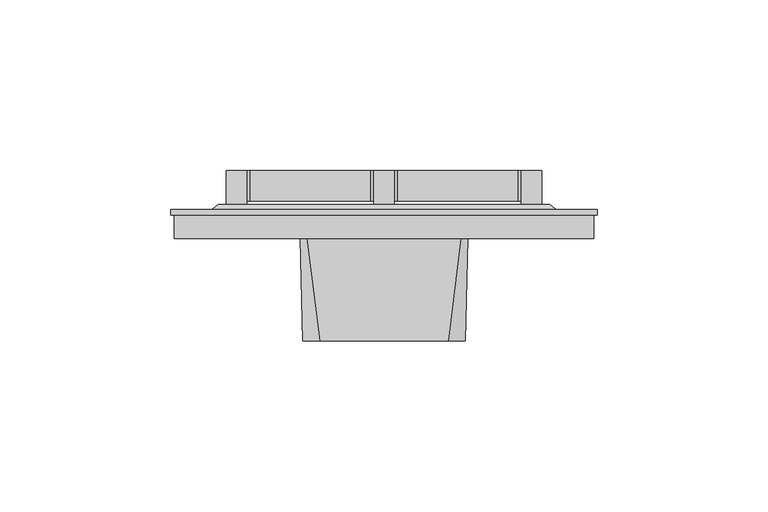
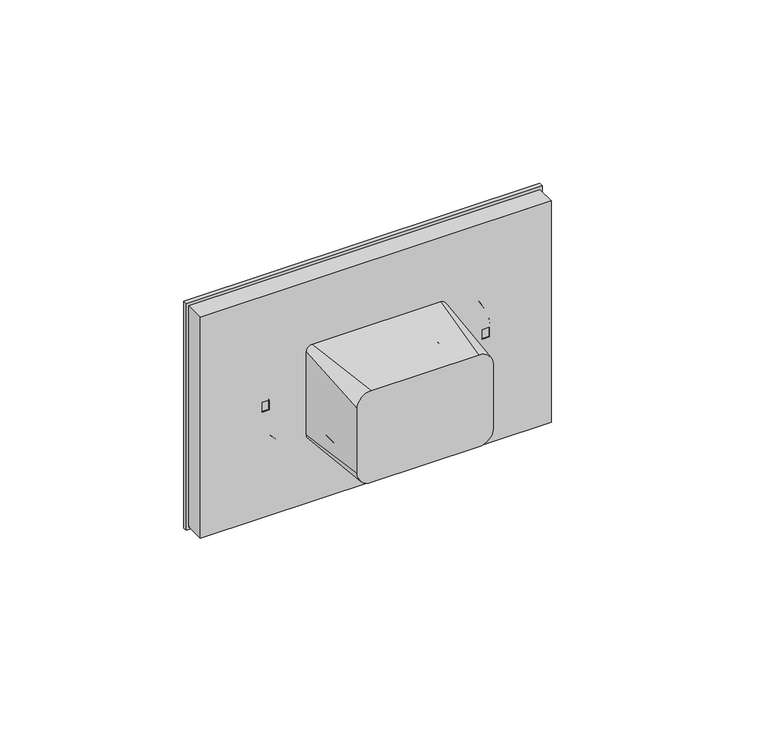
"""IFC4 building model written with IfcOpenShell, lengths in millimetres: proxy geometry, IEK_Brite_Розетка_2гн : 230 В кр. IP44_РСбш12-3-44-БрА."""

import ifcopenshell
import ifcopenshell.guid

model = None  # the IFC model being written
_history = None  # IfcOwnerHistory: only IFC2X3 demands one
_inside = {}  # id of a spatial element -> (the spatial element, [elements in it])
_under = {}  # id of a project, library or spatial element -> (it, [spatial elements below it])
_declared = {}  # id of a project -> (the project, [libraries it declares])
_typed = {}  # id of a type object -> (the type object, [elements of that type])
_made_of = {}  # id of a material, layer set ... -> (it, [elements and type objects made of it])


def new_model(schema):
    """Start an empty IFC model of exactly this schema.

    Asked for "IFC4X3", IfcOpenShell would pick the latest addendum, in which some entities
    have other attributes; the version numbers below select the first issue.
    IFC2X3 requires an IfcOwnerHistory on every rooted entity: one is made here for all.
    """
    global model, _history
    if schema == "IFC4X3":
        model = ifcopenshell.file(schema_version=(4, 3, 0, 0))
    else:
        model = ifcopenshell.file(schema=schema)
    _inside.clear()
    _under.clear()
    _declared.clear()
    _typed.clear()
    _made_of.clear()
    _history = None
    if model.schema == "IFC2X3":
        org = make("IfcOrganization", Name="unknown")
        user = make(
            "IfcPersonAndOrganization",
            ThePerson=make("IfcPerson", FamilyName="unknown"),
            TheOrganization=org,
        )
        app = make(
            "IfcApplication",
            ApplicationDeveloper=org,
            Version="unknown",
            ApplicationFullName="unknown",
            ApplicationIdentifier="unknown",
        )
        _history = make(
            "IfcOwnerHistory",
            OwningUser=user,
            OwningApplication=app,
            ChangeAction="ADDED",
            CreationDate=0,
        )
    return model


def make(cls, **values):
    """One entity of the class cls with the attributes given. An attribute that is None is left unset."""
    return model.create_entity(
        cls, **{name: value for name, value in values.items() if value is not None}
    )


def rooted(cls, **values):
    """An entity with a GlobalId (a new one), such as an element, a storey or a relation."""
    return make(cls, GlobalId=ifcopenshell.guid.new(), OwnerHistory=_history, **values)


def si_unit(unit_type, name, prefix=None):
    """IfcSIUnit, for example si_unit("LENGTHUNIT", "METRE", prefix="MILLI")."""
    return make("IfcSIUnit", UnitType=unit_type, Prefix=prefix, Name=name)


def assignment(units):
    """IfcUnitAssignment: the units of a project."""
    return None if units is None else make("IfcUnitAssignment", Units=units)


def point(xyz):
    """IfcCartesianPoint."""
    return None if xyz is None else make("IfcCartesianPoint", Coordinates=xyz)


def direction(xyz):
    """IfcDirection."""
    return None if xyz is None else make("IfcDirection", DirectionRatios=xyz)


def frame(location, z_axis=None, x_axis=None):
    """IfcAxis2Placement3D, a coordinate frame: its origin and axes. An axis left out is left unset."""
    return make(
        "IfcAxis2Placement3D",
        Location=point(location),
        Axis=direction(z_axis),
        RefDirection=direction(x_axis),
    )


def origin():
    """The frame at (0, 0, 0) with its axes left unset."""
    return frame((0.0, 0.0, 0.0))


def place(relative_to, where):
    """IfcLocalPlacement: puts the frame where relative to a parent placement (None: the world)."""
    return make(
        "IfcLocalPlacement", PlacementRelTo=relative_to, RelativePlacement=where
    )


def context(
    kind, dimensions, precision=None, world=None, true_north=None, identifier=None
):
    """IfcGeometricRepresentationContext, for example the 3D "Model" context."""
    return make(
        "IfcGeometricRepresentationContext",
        ContextIdentifier=identifier,
        ContextType=kind,
        CoordinateSpaceDimension=dimensions,
        Precision=precision,
        WorldCoordinateSystem=world,
        TrueNorth=true_north,
    )


def project(units=None, contexts=None):
    """IfcProject with its units and contexts."""
    return rooted(
        "IfcProject",
        Name="project",
        RepresentationContexts=contexts,
        UnitsInContext=assignment(units),
    )


def spatial(cls, under=None, at=None, **own):
    """A site, building, storey or space (cls), placed at a placement, below another one or the project."""
    s = rooted(cls, ObjectPlacement=at, **own)
    if under is not None:
        _under.setdefault(under.id(), (under, []))[1].append(s)
    return s


def polyline(points):
    """IfcPolyline through the points."""
    return make("IfcPolyline", Points=[point(p) for p in points])


def circle_curve(where, radius):
    """IfcCircle in the frame where."""
    return make("IfcCircle", Position=where, Radius=radius)


def faces_of(points, faces, orient=None, outer=None):
    """IfcFace entities. A face is a list of loops; a loop is a list of indices into points, from 0.

    orient and outer hold one flag for each loop. By default every Orientation is true, the
    first loop of a face is its IfcFaceOuterBound and the others are IfcFaceBound.
    """
    made = []
    for i, loops in enumerate(faces):
        bounds = []
        for j, loop in enumerate(loops):
            is_outer = j == 0 if outer is None else outer[i][j]
            bounds.append(
                make(
                    "IfcFaceOuterBound" if is_outer else "IfcFaceBound",
                    Bound=make("IfcPolyLoop", Polygon=[points[k] for k in loop]),
                    Orientation=True if orient is None else orient[i][j],
                )
            )
        made.append(make("IfcFace", Bounds=bounds))
    return made


def faceted_brep(points, faces, orient=None, outer=None, voids=None):
    """IfcFacetedBrep: a solid bounded by flat faces; with voids (closed shells), ...WithVoids."""
    shared = [point(p) for p in points]
    hull = make("IfcClosedShell", CfsFaces=faces_of(shared, faces, orient, outer))
    if voids is None:
        return make("IfcFacetedBrep", Outer=hull)
    return make(
        "IfcFacetedBrepWithVoids",
        Outer=hull,
        Voids=[
            make(cls, CfsFaces=faces_of(shared, fs, o, b)) for cls, fs, o, b in voids
        ],
    )


def shape(context_of_items, identifier, shape_type, items):
    """IfcShapeRepresentation: the items that make up one representation, for example the "Body"."""
    return make(
        "IfcShapeRepresentation",
        ContextOfItems=context_of_items,
        RepresentationIdentifier=identifier,
        RepresentationType=shape_type,
        Items=items,
    )


def source(mapping_origin, context_of_items, identifier, shape_type, items):
    """IfcRepresentationMap: a shape defined once, which mapped items show again and again."""
    return make(
        "IfcRepresentationMap",
        MappingOrigin=mapping_origin,
        MappedRepresentation=shape(context_of_items, identifier, shape_type, items),
    )


def transform(
    local_origin,
    x_axis=None,
    y_axis=None,
    z_axis=None,
    scale=None,
    scale2=None,
    scale3=None,
    uniform=True,
):
    """IfcCartesianTransformationOperator3D, or its non-uniform kind. x_axis, y_axis, z_axis: its Axis1, 2, 3."""
    if uniform:
        return make(
            "IfcCartesianTransformationOperator3D",
            Axis1=direction(x_axis),
            Axis2=direction(y_axis),
            LocalOrigin=point(local_origin),
            Scale=scale,
            Axis3=direction(z_axis),
        )
    return make(
        "IfcCartesianTransformationOperator3DnonUniform",
        Axis1=direction(x_axis),
        Axis2=direction(y_axis),
        LocalOrigin=point(local_origin),
        Scale=scale,
        Axis3=direction(z_axis),
        Scale2=scale2,
        Scale3=scale3,
    )


def mapped(mapping_source, mapping_target):
    """IfcMappedItem: shows the shape of a source again, moved by a transform."""
    return make(
        "IfcMappedItem", MappingSource=mapping_source, MappingTarget=mapping_target
    )


def made_of(thing, what):
    """Note that an element or type object is made of a material, layer set ...; save() writes the relation."""
    if what is not None:
        _made_of.setdefault(what.id(), (what, []))[1].append(thing)
    return thing


def element(
    cls,
    number,
    at=None,
    inside=None,
    cuts=None,
    type_object=None,
    material=None,
    context=None,
    identifier="Body",
    shape_type=None,
    held_by="IfcProductDefinitionShape",
    body=None,
    shapes=None,
    **own,
):
    """One element of the class cls, such as IfcWall. Its Tag is "e" and its number.

    at: its placement. inside: the storey or other place that contains it. cuts: it is an
    opening in that element (IfcRelVoidsElement). A single representation is given by context,
    identifier, shape_type and body (its items); several are given by shapes. held_by: the class
    of the entity that holds the representations. save() writes the other relations.
    """
    e = rooted(cls, Tag="e%d" % number, ObjectPlacement=at, **own)
    if body is not None:
        shapes = [shape(context, identifier, shape_type, body)]
    if shapes is not None:
        e.Representation = make(held_by, Representations=shapes)
    if inside is not None:
        _inside.setdefault(inside.id(), (inside, []))[1].append(e)
    if cuts is not None:
        rooted(
            "IfcRelVoidsElement", RelatingBuildingElement=cuts, RelatedOpeningElement=e
        )
    if type_object is not None:
        _typed.setdefault(type_object.id(), (type_object, []))[1].append(e)
    return made_of(e, material)


def aggregate(whole, parts):
    """IfcRelAggregates: a whole, such as a stair, and the parts it consists of."""
    return rooted("IfcRelAggregates", RelatingObject=whole, RelatedObjects=parts)


def save(model, path):
    """Write the relations noted so far, then the file.

    IfcRelAggregates (storeys below a building ...), IfcRelContainedInSpatialStructure (elements
    in a storey), IfcRelDefinesByType, IfcRelAssociatesMaterial and IfcRelDeclares: one each for
    every whole, place, type object, material and project.
    """
    for whole, parts in _under.values():
        aggregate(whole, parts)
    for where, things in _inside.values():
        rooted(
            "IfcRelContainedInSpatialStructure",
            RelatedElements=things,
            RelatingStructure=where,
        )
    for kind, things in _typed.values():
        rooted("IfcRelDefinesByType", RelatedObjects=things, RelatingType=kind)
    for what, things in _made_of.values():
        rooted("IfcRelAssociatesMaterial", RelatedObjects=things, RelatingMaterial=what)
    for by, libraries in _declared.values():
        rooted("IfcRelDeclares", RelatingContext=by, RelatedDefinitions=libraries)
    model.write(path)


def plane_surface(at):
    """IfcPlane: the flat surface through the origin of the frame at, square to its z axis."""
    return make("IfcPlane", Position=at)


def revolved_surface(curve, axis_point, axis_direction):
    """IfcSurfaceOfRevolution: the curve turned about the line through axis_point along axis_direction."""
    return make(
        "IfcSurfaceOfRevolution",
        SweptCurve=make("IfcArbitraryOpenProfileDef", ProfileType="CURVE", Curve=curve),
        AxisPosition=make("IfcAxis1Placement", Location=point(axis_point), Axis=direction(axis_direction)),
    )


def spline_surface(u_degree, v_degree, points, u_multiplicities, v_multiplicities, u_knots, v_knots, weights=None):
    """IfcBSplineSurfaceWithKnots; with weights, IfcRationalBSplineSurfaceWithKnots. points: one row for each step in u."""
    own = dict(
        UDegree=u_degree,
        VDegree=v_degree,
        ControlPointsList=[[point(p) for p in row] for row in points],
        SurfaceForm="UNSPECIFIED",
        UClosed=False,
        VClosed=False,
        SelfIntersect=False,
        UMultiplicities=u_multiplicities,
        VMultiplicities=v_multiplicities,
        UKnots=u_knots,
        VKnots=v_knots,
        KnotSpec="UNSPECIFIED",
    )
    if weights is None:
        return make("IfcBSplineSurfaceWithKnots", **own)
    return make("IfcRationalBSplineSurfaceWithKnots", WeightsData=weights, **own)


def advanced_brep(points, edges, surfaces, faces):
    """IfcAdvancedBrep: a solid bounded by faces that lie on surfaces and meet in shared edges.

    An edge is (start, end): straight between two places in points (the first is 0);
    or (start, end, curve); or (start, end, curve, False) where it runs against its curve.
    A face is (place in surfaces, loops), or (place, loops, False) where it looks against
    its surface's normal. A loop lists edges by number (the first is 1), with a minus sign
    where the edge is run from its end to its start. The first loop is the outer one.
    """
    corners = [point(p) for p in points]
    vertices = [make("IfcVertexPoint", VertexGeometry=c) for c in corners]
    made = []
    for start, end, *more in edges:
        made.append(
            make(
                "IfcEdgeCurve",
                EdgeStart=vertices[start],
                EdgeEnd=vertices[end],
                EdgeGeometry=more[0] if more else make("IfcPolyline", Points=[corners[start], corners[end]]),
                SameSense=more[1] if len(more) > 1 else True,
            )
        )
    hull = []
    for where, loops, *sense in faces:
        bounds = []
        for j, loop in enumerate(loops):
            ring = [make("IfcOrientedEdge", EdgeElement=made[abs(k) - 1], Orientation=k > 0) for k in loop]
            bounds.append(
                make(
                    "IfcFaceOuterBound" if j == 0 else "IfcFaceBound",
                    Bound=make("IfcEdgeLoop", EdgeList=ring),
                    Orientation=True,
                )
            )
        hull.append(make("IfcAdvancedFace", Bounds=bounds, FaceSurface=surfaces[where], SameSense=sense[0] if sense else True))
    return make("IfcAdvancedBrep", Outer=make("IfcClosedShell", CfsFaces=hull))


def electrical_fixtures_f460a2b5(model_context):
    return source(origin(), model_context, "Body", "SolidModel", [
        faceted_brep([(39.1724879, 20.0, 24.0), (39.1724879, 20.0, 16.5083131), (46.1724879, 20.0, 16.5083131), (46.1724879, 20.0, -26.7712735), (0.3, 20.0, -26.7712735), (0.3, 20.0, 16.5083131), (3.9893441, 20.0, 16.5083131), (3.9893441, 20.0, 24.0), (39.1724879, 11.0, 24.0), (3.9893441, 11.0, 24.0), (3.9893441, 11.0, 13.501454), (0.3, 11.0, 13.501454), (0.3, 11.0, -25.3475157), (46.1724879, 11.0, -25.3475157), (46.1724879, 11.0, 13.501454), (39.1724879, 11.0, 13.501454)], [[[0, 1, 2, 3, 4, 5, 6, 7]], [[8, 9, 10, 11, 12, 13, 14, 15]], [[8, 15, 1, 0]], [[15, 14, 2, 1]], [[14, 13, 3, 2]], [[13, 12, 4, 3]], [[12, 11, 5, 4]], [[11, 10, 6, 5]], [[10, 9, 7, 6]], [[9, 8, 0, 7]]]),
        advanced_brep(
        [(20.5, 0.0, -6.3904783), (20.5, 0.0, -11.8753617), (20.5, 0.5, -11.8753617), (20.5, 0.5, -6.3904783), (20.5, 0.0, 3.0105286), (20.5, 0.0, -3.0105286), (20.5, 0.5, -3.0105286), (20.5, 0.5, 3.0105286), (20.5, 0.0, 11.8753617), (20.5, 0.0, 6.3904783), (20.5, 0.5, 6.3904783), (20.5, 0.5, 11.8753617), (39.8280847, 0.0, -1.7917908), (39.8280847, 0.0, 0.0), (39.8280847, 0.5, 0.0), (39.8280847, 0.5, -1.7917908), (39.8280847, 0.0, 1.7917908), (39.8280847, 0.5, 1.7917908), (37.3280847, 0.0, 1.7917908), (37.3280847, 0.5, 1.7917908), (37.3280847, 0.0, 0.0), (37.3280847, 0.5, 0.0), (37.3280847, 0.0, -1.7917908), (37.3280847, 0.5, -1.7917908), (1.1719153, 0.0, -1.7917908), (3.6719153, 0.0, -1.7917908), (3.6719153, 0.5, -1.7917908), (1.1719153, 0.5, -1.7917908), (3.6719153, 0.0, 0.0), (3.6719153, 0.5, 0.0), (3.6719153, 0.0, 1.7917908), (3.6719153, 0.5, 1.7917908), (1.1719153, 0.0, 1.7917908), (1.1719153, 0.5, 1.7917908), (1.1719153, 0.0, 0.0), (1.1719153, 0.5, 0.0), (-20.5, 0.0, -6.3904783), (-20.5, 0.0, -11.8753617), (-20.5, 0.5, -11.8753617), (-20.5, 0.5, -6.3904783), (-20.5, 0.0, 3.0105286), (-20.5, 0.0, -3.0105286), (-20.5, 0.5, -3.0105286), (-20.5, 0.5, 3.0105286), (-20.5, 0.0, 11.8753617), (-20.5, 0.0, 6.3904783), (-20.5, 0.5, 6.3904783), (-20.5, 0.5, 11.8753617), (-39.8280847, 0.0, -1.7917908), (-37.3280847, 0.0, -1.7917908), (-37.3280847, 0.5, -1.7917908), (-39.8280847, 0.5, -1.7917908), (-37.3280847, 0.0, 0.0), (-37.3280847, 0.5, 0.0), (-37.3280847, 0.0, 1.7917908), (-37.3280847, 0.5, 1.7917908), (-39.8280847, 0.0, 1.7917908), (-39.8280847, 0.5, 1.7917908), (-39.8280847, 0.0, 0.0), (-39.8280847, 0.5, 0.0), (-1.1719153, 0.0, -1.7917908), (-1.1719153, 0.0, 0.0), (-1.1719153, 0.5, 0.0), (-1.1719153, 0.5, -1.7917908), (-1.1719153, 0.0, 1.7917908), (-1.1719153, 0.5, 1.7917908), (-3.6719153, 0.0, 1.7917908), (-3.6719153, 0.5, 1.7917908), (-3.6719153, 0.0, 0.0), (-3.6719153, 0.5, 0.0), (-3.6719153, 0.0, -1.7917908), (-3.6719153, 0.5, -1.7917908), (-48.5, 10.0, 28.0), (48.5, 10.0, 28.0), (48.5, 10.0, -28.0), (-48.5, 10.0, -28.0), (-0.5, 10.0, 0.0), (-40.5, 10.0, 0.0), (40.5, 10.0, 0.0), (0.5, 10.0, 0.0), (-50.5, 8.5, -30.0), (-50.5, 8.5, 30.0), (50.5, 8.5, -30.0), (50.5, 8.5, 30.0), (-0.5, 0.5, 0.0), (-40.5, 0.5, 0.0), (40.5, 0.5, 0.0), (0.5, 0.5, 0.0), (-62.5, 7.0, 42.0), (-62.5, 7.0, -42.0), (62.5, 7.0, -42.0), (62.5, 7.0, 42.0), (-61.5, 7.0, -41.0), (-61.5, 7.0, 41.0), (61.5, 7.0, 41.0), (61.5, 7.0, -41.0), (-62.5, 8.5, 42.0), (62.5, 8.5, 42.0), (62.5, 8.5, -42.0), (-62.5, 8.5, -42.0), (-61.5, 0.0, 41.0), (-61.5, 0.0, -41.0), (61.5, 0.0, -41.0), (61.5, 0.0, 41.0)],
        [
            (0, 1, circle_curve(frame((20.5, 0.0, -9.13292), z_axis=(0.0, -1.0, 0.0), x_axis=(0.0, 0.0, -1.0)), 2.7424417)),
            (1, 2),
            (2, 3, circle_curve(frame((20.5, 0.5, -9.13292), z_axis=(0.0, 1.0, 0.0), x_axis=(0.0, 0.0, -1.0)), 2.7424417)),
            (3, 0),
            (1, 0, circle_curve(frame((20.5, 0.0, -9.13292), z_axis=(0.0, -1.0, 0.0), x_axis=(0.0, 0.0, -1.0)), 2.7424417)),
            (3, 2, circle_curve(frame((20.5, 0.5, -9.13292), z_axis=(0.0, 1.0, 0.0), x_axis=(0.0, 0.0, -1.0)), 2.7424417)),
            (4, 5, circle_curve(frame((20.5, 0.0, 0.0), z_axis=(0.0, -1.0, 0.0), x_axis=(0.0, 0.0, -1.0)), 3.0105286)),
            (5, 6),
            (6, 7, circle_curve(frame((20.5, 0.5, 0.0), z_axis=(0.0, 1.0, 0.0), x_axis=(0.0, 0.0, -1.0)), 3.0105286)),
            (7, 4),
            (5, 4, circle_curve(frame((20.5, 0.0, 0.0), z_axis=(0.0, -1.0, 0.0), x_axis=(0.0, 0.0, -1.0)), 3.0105286)),
            (7, 6, circle_curve(frame((20.5, 0.5, 0.0), z_axis=(0.0, 1.0, 0.0), x_axis=(0.0, 0.0, -1.0)), 3.0105286)),
            (8, 9, circle_curve(frame((20.5, 0.0, 9.13292), z_axis=(0.0, -1.0, 0.0), x_axis=(0.0, 0.0, -1.0)), 2.7424417)),
            (9, 10),
            (10, 11, circle_curve(frame((20.5, 0.5, 9.13292), z_axis=(0.0, 1.0, 0.0), x_axis=(0.0, 0.0, -1.0)), 2.7424417)),
            (11, 8),
            (9, 8, circle_curve(frame((20.5, 0.0, 9.13292), z_axis=(0.0, -1.0, 0.0), x_axis=(0.0, 0.0, -1.0)), 2.7424417)),
            (11, 10, circle_curve(frame((20.5, 0.5, 9.13292), z_axis=(0.0, 1.0, 0.0), x_axis=(0.0, 0.0, -1.0)), 2.7424417)),
            (12, 13),
            (13, 14),
            (14, 15),
            (15, 12),
            (13, 16),
            (16, 17),
            (17, 14),
            (16, 18),
            (18, 19),
            (19, 17),
            (18, 20),
            (20, 21),
            (21, 19),
            (20, 22),
            (22, 23),
            (23, 21),
            (22, 12),
            (15, 23),
            (24, 25),
            (25, 26),
            (26, 27),
            (27, 24),
            (25, 28),
            (28, 29),
            (29, 26),
            (28, 30),
            (30, 31),
            (31, 29),
            (30, 32),
            (32, 33),
            (33, 31),
            (32, 34),
            (34, 35),
            (35, 33),
            (34, 24),
            (27, 35),
            (36, 37, circle_curve(frame((-20.5, 0.0, -9.13292), z_axis=(0.0, -1.0, 0.0), x_axis=(0.0, 0.0, -1.0)), 2.7424417)),
            (37, 38),
            (38, 39, circle_curve(frame((-20.5, 0.5, -9.13292), z_axis=(0.0, 1.0, 0.0), x_axis=(0.0, 0.0, -1.0)), 2.7424417)),
            (39, 36),
            (37, 36, circle_curve(frame((-20.5, 0.0, -9.13292), z_axis=(0.0, -1.0, 0.0), x_axis=(0.0, 0.0, -1.0)), 2.7424417)),
            (39, 38, circle_curve(frame((-20.5, 0.5, -9.13292), z_axis=(0.0, 1.0, 0.0), x_axis=(0.0, 0.0, -1.0)), 2.7424417)),
            (40, 41, circle_curve(frame((-20.5, 0.0, 0.0), z_axis=(0.0, -1.0, 0.0), x_axis=(0.0, 0.0, -1.0)), 3.0105286)),
            (41, 42),
            (42, 43, circle_curve(frame((-20.5, 0.5, 0.0), z_axis=(0.0, 1.0, 0.0), x_axis=(0.0, 0.0, -1.0)), 3.0105286)),
            (43, 40),
            (41, 40, circle_curve(frame((-20.5, 0.0, 0.0), z_axis=(0.0, -1.0, 0.0), x_axis=(0.0, 0.0, -1.0)), 3.0105286)),
            (43, 42, circle_curve(frame((-20.5, 0.5, 0.0), z_axis=(0.0, 1.0, 0.0), x_axis=(0.0, 0.0, -1.0)), 3.0105286)),
            (44, 45, circle_curve(frame((-20.5, 0.0, 9.13292), z_axis=(0.0, -1.0, 0.0), x_axis=(0.0, 0.0, -1.0)), 2.7424417)),
            (45, 46),
            (46, 47, circle_curve(frame((-20.5, 0.5, 9.13292), z_axis=(0.0, 1.0, 0.0), x_axis=(0.0, 0.0, -1.0)), 2.7424417)),
            (47, 44),
            (45, 44, circle_curve(frame((-20.5, 0.0, 9.13292), z_axis=(0.0, -1.0, 0.0), x_axis=(0.0, 0.0, -1.0)), 2.7424417)),
            (47, 46, circle_curve(frame((-20.5, 0.5, 9.13292), z_axis=(0.0, 1.0, 0.0), x_axis=(0.0, 0.0, -1.0)), 2.7424417)),
            (48, 49),
            (49, 50),
            (50, 51),
            (51, 48),
            (49, 52),
            (52, 53),
            (53, 50),
            (52, 54),
            (54, 55),
            (55, 53),
            (54, 56),
            (56, 57),
            (57, 55),
            (56, 58),
            (58, 59),
            (59, 57),
            (58, 48),
            (51, 59),
            (60, 61),
            (61, 62),
            (62, 63),
            (63, 60),
            (61, 64),
            (64, 65),
            (65, 62),
            (64, 66),
            (66, 67),
            (67, 65),
            (66, 68),
            (68, 69),
            (69, 67),
            (68, 70),
            (70, 71),
            (71, 69),
            (70, 60),
            (63, 71),
            (72, 73),
            (73, 74),
            (74, 75),
            (75, 72),
            (76, 77, circle_curve(frame((-20.5, 10.0, 0.0), z_axis=(0.0, -1.0, 0.0), x_axis=(-1.0, 0.0, 0.0)), 20.0)),
            (77, 76, circle_curve(frame((-20.5, 10.0, 0.0), z_axis=(0.0, -1.0, 0.0), x_axis=(-1.0, 0.0, 0.0)), 20.0)),
            (78, 79, circle_curve(frame((20.5, 10.0, 0.0), z_axis=(0.0, -1.0, 0.0), x_axis=(-1.0, 0.0, 0.0)), 20.0)),
            (79, 78, circle_curve(frame((20.5, 10.0, 0.0), z_axis=(0.0, -1.0, 0.0), x_axis=(-1.0, 0.0, 0.0)), 20.0)),
            (75, 80),
            (80, 81),
            (81, 72),
            (74, 82),
            (82, 80),
            (73, 83),
            (83, 82),
            (81, 83),
            (84, 85, circle_curve(frame((-20.5, 0.5, 0.0), z_axis=(0.0, 1.0, 0.0), x_axis=(-1.0, 0.0, 0.0)), 20.0)),
            (85, 84, circle_curve(frame((-20.5, 0.5, 0.0), z_axis=(0.0, 1.0, 0.0), x_axis=(-1.0, 0.0, 0.0)), 20.0)),
            (86, 87, circle_curve(frame((20.5, 0.5, 0.0), z_axis=(0.0, 1.0, 0.0), x_axis=(-1.0, 0.0, 0.0)), 20.0)),
            (87, 86, circle_curve(frame((20.5, 0.5, 0.0), z_axis=(0.0, 1.0, 0.0), x_axis=(-1.0, 0.0, 0.0)), 20.0)),
            (85, 77),
            (76, 84),
            (87, 79),
            (78, 86),
            (88, 89),
            (89, 90),
            (90, 91),
            (91, 88),
            (92, 93),
            (93, 94),
            (94, 95),
            (95, 92),
            (96, 97),
            (97, 98),
            (98, 99),
            (99, 96),
            (91, 97),
            (96, 88),
            (90, 98),
            (89, 99),
            (100, 101),
            (101, 102),
            (102, 103),
            (103, 100),
            (100, 93),
            (92, 101),
            (95, 102),
            (94, 103),
        ],
        [
            revolved_surface(polyline([(20.5, 0.0, -11.875361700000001), (20.5, 0.5, -11.875361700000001)]), (20.5, 1.0, -9.13292), (0.0, -1.0, 0.0)),
            revolved_surface(polyline([(20.5, 0.0, -3.0105286), (20.5, 0.5, -3.0105286)]), (20.5, -2.0, 0.0), (0.0, -1.0, 0.0)),
            revolved_surface(polyline([(20.5, 0.0, 6.3904783), (20.5, 0.5, 6.3904783)]), (20.5, -2.0, 9.13292), (0.0, -1.0, 0.0)),
            plane_surface(frame((39.8280847, -13.4962918, -1.7917908), z_axis=(-1.0, 0.0, 0.0), x_axis=(0.0, 1.0, 0.0))),
            plane_surface(frame((39.8280847, -13.4962918, 0.0), z_axis=(-1.0, 0.0, 0.0), x_axis=(0.0, 1.0, 0.0))),
            plane_surface(frame((39.8280847, -13.4962918, 1.7917908), z_axis=(0.0, 0.0, -1.0), x_axis=(0.0, 1.0, 0.0))),
            plane_surface(frame((37.3280847, -13.4962918, 1.7917908), z_axis=(1.0, 0.0, 0.0), x_axis=(0.0, 1.0, 0.0))),
            plane_surface(frame((37.3280847, -13.4962918, 0.0), z_axis=(1.0, 0.0, 0.0), x_axis=(0.0, 1.0, 0.0))),
            plane_surface(frame((37.3280847, -13.4962918, -1.7917908), z_axis=(0.0, 0.0, 1.0), x_axis=(0.0, 1.0, 0.0))),
            plane_surface(frame((1.1719153, -13.4962918, -1.7917908), z_axis=(0.0, 0.0, 1.0), x_axis=(0.0, 1.0, 0.0))),
            plane_surface(frame((3.6719153, -13.4962918, -1.7917908), z_axis=(-1.0, 0.0, 0.0), x_axis=(0.0, 1.0, 0.0))),
            plane_surface(frame((3.6719153, -13.4962918, 0.0), z_axis=(-1.0, 0.0, 0.0), x_axis=(0.0, 1.0, 0.0))),
            plane_surface(frame((3.6719153, -13.4962918, 1.7917908), z_axis=(0.0, 0.0, -1.0), x_axis=(0.0, 1.0, 0.0))),
            plane_surface(frame((1.1719153, -13.4962918, 1.7917908), z_axis=(1.0, 0.0, 0.0), x_axis=(0.0, 1.0, 0.0))),
            plane_surface(frame((1.1719153, -13.4962918, 0.0), z_axis=(1.0, 0.0, 0.0), x_axis=(0.0, 1.0, 0.0))),
            revolved_surface(polyline([(-20.5, 0.0, -11.875361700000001), (-20.5, 0.5, -11.875361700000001)]), (-20.5, -2.0, -9.13292), (0.0, -1.0, 0.0)),
            revolved_surface(polyline([(-20.5, 0.0, -3.0105286), (-20.5, 0.5, -3.0105286)]), (-20.5, -2.0, 0.0), (0.0, -1.0, 0.0)),
            revolved_surface(polyline([(-20.5, 0.0, 6.3904783), (-20.5, 0.5, 6.3904783)]), (-20.5, -2.0, 9.13292), (0.0, -1.0, 0.0)),
            plane_surface(frame((-39.8280847, -13.4962918, -1.7917908), z_axis=(0.0, 0.0, 1.0), x_axis=(0.0, 1.0, 0.0))),
            plane_surface(frame((-37.3280847, -13.4962918, -1.7917908), z_axis=(-1.0, 0.0, 0.0), x_axis=(0.0, 1.0, 0.0))),
            plane_surface(frame((-37.3280847, -13.4962918, 0.0), z_axis=(-1.0, 0.0, 0.0), x_axis=(0.0, 1.0, 0.0))),
            plane_surface(frame((-37.3280847, -13.4962918, 1.7917908), z_axis=(0.0, 0.0, -1.0), x_axis=(0.0, 1.0, 0.0))),
            plane_surface(frame((-39.8280847, -13.4962918, 1.7917908), z_axis=(1.0, 0.0, 0.0), x_axis=(0.0, 1.0, 0.0))),
            plane_surface(frame((-39.8280847, -13.4962918, 0.0), z_axis=(1.0, 0.0, 0.0), x_axis=(0.0, 1.0, 0.0))),
            plane_surface(frame((-1.1719153, -13.4962918, -1.7917908), z_axis=(-1.0, 0.0, 0.0), x_axis=(0.0, 1.0, 0.0))),
            plane_surface(frame((-1.1719153, -13.4962918, 0.0), z_axis=(-1.0, 0.0, 0.0), x_axis=(0.0, 1.0, 0.0))),
            plane_surface(frame((-1.1719153, -13.4962918, 1.7917908), z_axis=(0.0, 0.0, -1.0), x_axis=(0.0, 1.0, 0.0))),
            plane_surface(frame((-3.6719153, -13.4962918, 1.7917908), z_axis=(1.0, 0.0, 0.0), x_axis=(0.0, 1.0, 0.0))),
            plane_surface(frame((-3.6719153, -13.4962918, 0.0), z_axis=(1.0, 0.0, 0.0), x_axis=(0.0, 1.0, 0.0))),
            plane_surface(frame((-3.6719153, -13.4962918, -1.7917908), z_axis=(0.0, 0.0, 1.0), x_axis=(0.0, 1.0, 0.0))),
            plane_surface(frame((0.0, 10.0, 0.0), z_axis=(0.0, 1.0, 0.0), x_axis=(1.0, 0.0, 0.0))),
            plane_surface(frame((-48.5, 10.0, 0.0), z_axis=(-0.5999999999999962, 0.8000000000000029, 0.0), x_axis=(0.0, 0.0, -1.0))),
            plane_surface(frame((0.0, 10.0, -28.0), z_axis=(0.0, 0.7999999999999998, -0.6000000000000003), x_axis=(1.0, 0.0, 0.0))),
            plane_surface(frame((48.5, 10.0, 0.0), z_axis=(0.6000000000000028, 0.7999999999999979, 0.0), x_axis=(0.0, 0.0, 1.0))),
            plane_surface(frame((0.0, 10.0, 28.0), z_axis=(0.0, 0.7999999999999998, 0.6000000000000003), x_axis=(-1.0, 0.0, 0.0))),
            plane_surface(frame((-40.5, 0.5, 0.0), z_axis=(0.0, 1.0, 0.0), x_axis=(0.0, 0.0, -1.0))),
            revolved_surface(polyline([(-40.5, 10.0, 0.0), (-40.5, 0.5, 0.0)]), (-20.5, 0.5, 0.0), (0.0, 1.0, 0.0)),
            revolved_surface(polyline([(0.5, 10.0, 0.0), (0.5, 0.5, 0.0)]), (20.5, 0.0, 0.0), (0.0, 1.0, 0.0)),
            plane_surface(frame((62.5, 7.0, 42.0), z_axis=(0.0, -1.0, 0.0), x_axis=(-1.0, 0.0, 0.0))),
            plane_surface(frame((62.5, 8.5, 42.0), z_axis=(0.0, 1.0, 0.0), x_axis=(1.0, 0.0, 0.0))),
            plane_surface(frame((-62.5, 8.5, 42.0), z_axis=(0.0, 0.0, 1.0), x_axis=(0.0, -1.0, 0.0))),
            plane_surface(frame((62.5, 8.5, 42.0), z_axis=(1.0, 0.0, 0.0), x_axis=(0.0, -1.0, 0.0))),
            plane_surface(frame((62.5, 8.5, -42.0), z_axis=(0.0, 0.0, -1.0), x_axis=(0.0, -1.0, 0.0))),
            plane_surface(frame((-62.5, 8.5, -42.0), z_axis=(-1.0, 0.0, 0.0), x_axis=(0.0, -1.0, 0.0))),
            plane_surface(frame((-61.5, 0.0, 41.0), z_axis=(0.0, -1.0, 0.0), x_axis=(0.0, 0.0, -1.0))),
            plane_surface(frame((-61.5, 0.0, 41.0), z_axis=(-1.0, 0.0, 0.0), x_axis=(0.0, 1.0, 0.0))),
            plane_surface(frame((-61.5, 0.0, -41.0), z_axis=(0.0, 0.0, -1.0), x_axis=(0.0, 1.0, 0.0))),
            plane_surface(frame((61.5, 0.0, -41.0), z_axis=(1.0, 0.0, 0.0), x_axis=(0.0, 1.0, 0.0))),
            plane_surface(frame((61.5, 0.0, 41.0), z_axis=(0.0, 0.0, 1.0), x_axis=(0.0, 1.0, 0.0))),
        ],
        [
            (0, [[1, 2, 3, 4]]),
            (0, [[5, -4, 6, -2]]),
            (1, [[7, 8, 9, 10]]),
            (1, [[11, -10, 12, -8]]),
            (2, [[13, 14, 15, 16]]),
            (2, [[17, -16, 18, -14]]),
            (3, [[19, 20, 21, 22]]),
            (4, [[23, 24, 25, -20]]),
            (5, [[26, 27, 28, -24]]),
            (6, [[29, 30, 31, -27]]),
            (7, [[32, 33, 34, -30]]),
            (8, [[35, -22, 36, -33]]),
            (9, [[37, 38, 39, 40]]),
            (10, [[41, 42, 43, -38]]),
            (11, [[44, 45, 46, -42]]),
            (12, [[47, 48, 49, -45]]),
            (13, [[50, 51, 52, -48]]),
            (14, [[53, -40, 54, -51]]),
            (15, [[55, 56, 57, 58]]),
            (15, [[59, -58, 60, -56]]),
            (16, [[61, 62, 63, 64]]),
            (16, [[65, -64, 66, -62]]),
            (17, [[67, 68, 69, 70]]),
            (17, [[71, -70, 72, -68]]),
            (18, [[73, 74, 75, 76]]),
            (19, [[77, 78, 79, -74]]),
            (20, [[80, 81, 82, -78]]),
            (21, [[83, 84, 85, -81]]),
            (22, [[86, 87, 88, -84]]),
            (23, [[89, -76, 90, -87]]),
            (24, [[91, 92, 93, 94]]),
            (25, [[95, 96, 97, -92]]),
            (26, [[98, 99, 100, -96]]),
            (27, [[101, 102, 103, -99]]),
            (28, [[104, 105, 106, -102]]),
            (29, [[107, -94, 108, -105]]),
            (30, [[109, 110, 111, 112], [113, 114], [115, 116]]),
            (31, [[-112, 117, 118, 119]]),
            (32, [[-111, 120, 121, -117]]),
            (33, [[-110, 122, 123, -120]]),
            (34, [[-109, -119, 124, -122]]),
            (35, [[125, 126], [-57, -60], [-63, -66], [-69, -72], [-75, -79, -82, -85, -88, -90], [-93, -97, -100, -103, -106, -108]]),
            (35, [[127, 128], [-3, -6], [-9, -12], [-15, -18], [-21, -25, -28, -31, -34, -36], [-39, -43, -46, -49, -52, -54]]),
            (36, [[-126, 129, -113, 130]]),
            (36, [[-125, -130, -114, -129]]),
            (37, [[-128, 131, -115, 132]]),
            (37, [[-127, -132, -116, -131]]),
            (38, [[133, 134, 135, 136], [137, 138, 139, 140]]),
            (39, [[141, 142, 143, 144], [-118, -121, -123, -124]]),
            (40, [[-136, 145, -141, 146]]),
            (41, [[-135, 147, -142, -145]]),
            (42, [[-134, 148, -143, -147]]),
            (43, [[-133, -146, -144, -148]]),
            (44, [[149, 150, 151, 152], [-1, -5], [-7, -11], [-13, -17], [-19, -35, -32, -29, -26, -23], [-37, -53, -50, -47, -44, -41], [-55, -59], [-61, -65], [-67, -71], [-73, -89, -86, -83, -80, -77], [-91, -107, -104, -101, -98, -95]]),
            (45, [[-149, 153, -137, 154]]),
            (46, [[-150, -154, -140, 155]]),
            (47, [[-151, -155, -139, 156]]),
            (48, [[-152, -156, -138, -153]]),
        ],
    ),
        faceted_brep([(-39.1724879, 20.0, 24.0), (-3.9893441, 20.0, 24.0), (-3.9893441, 20.0, 16.5083131), (-0.2893441, 20.0, 16.5083131), (-0.2893441, 20.0, -26.7712735), (-46.1724879, 20.0, -26.7712735), (-46.1724879, 20.0, 16.5083131), (-39.1724879, 20.0, 16.5083131), (-39.1724879, 11.0, 24.0), (-39.1724879, 11.0, 13.501454), (-46.1724879, 11.0, 13.501454), (-46.1724879, 11.0, -25.3475157), (-0.2893441, 11.0, -25.3475157), (-0.2893441, 11.0, 13.501454), (-3.9893441, 11.0, 13.501454), (-3.9893441, 11.0, 24.0)], [[[0, 1, 2, 3, 4, 5, 6, 7]], [[8, 9, 10, 11, 12, 13, 14, 15]], [[9, 8, 0, 7]], [[10, 9, 7, 6]], [[11, 10, 6, 5]], [[12, 11, 5, 4]], [[13, 12, 4, 3]], [[14, 13, 3, 2]], [[15, 14, 2, 1]], [[8, 15, 1, 0]]]),
        advanced_brep(
        [(20.5, -13.4962918, -6.3904783), (20.5, -13.4962918, -11.8753617), (20.5, -13.4962918, 3.0105286), (20.5, -13.4962918, -3.0105286), (20.5, -13.4962918, 11.8753617), (20.5, -13.4962918, 6.3904783), (1.1719153, -13.4962918, -1.7917908), (1.1719153, -13.4962918, 0.0), (1.1719153, -13.4962918, 1.7917908), (3.6719153, -13.4962918, 1.7917908), (3.6719153, -13.4962918, 0.0), (3.6719153, -13.4962918, -1.7917908), (-20.5, -13.4962918, -6.3904783), (-20.5, -13.4962918, -11.8753617), (-20.5, -13.4962918, 3.0105286), (-20.5, -13.4962918, -3.0105286), (-20.5, -13.4962918, 11.8753617), (-20.5, -13.4962918, 6.3904783), (-1.1719153, -13.4962918, -1.7917908), (-3.6719153, -13.4962918, -1.7917908), (-3.6719153, -13.4962918, 0.0), (-3.6719153, -13.4962918, 1.7917908), (-1.1719153, -13.4962918, 1.7917908), (-1.1719153, -13.4962918, 0.0), (20.5, 0.0, -11.8753617), (20.5, 0.0, -6.3904783), (20.5, 0.0, -3.0105286), (20.5, 0.0, 3.0105286), (20.5, 0.0, 6.3904783), (20.5, 0.0, 11.8753617), (3.6719153, 0.0, -1.7917908), (1.1719153, 0.0, -1.7917908), (3.6719153, 0.0, 0.0), (3.6719153, 0.0, 1.7917908), (1.1719153, 0.0, 1.7917908), (1.1719153, 0.0, 0.0), (-20.5, 0.0, -11.8753617), (-20.5, 0.0, -6.3904783), (-20.5, 0.0, -3.0105286), (-20.5, 0.0, 3.0105286), (-20.5, 0.0, 6.3904783), (-20.5, 0.0, 11.8753617), (-1.1719153, 0.0, 0.0), (-1.1719153, 0.0, -1.7917908), (-1.1719153, 0.0, 1.7917908), (-3.6719153, 0.0, 1.7917908), (-3.6719153, 0.0, 0.0), (-3.6719153, 0.0, -1.7917908), (18.8462421, -30.0, -17.0), (23.8462421, -30.0, -12.0), (23.8462421, -30.0, 12.0), (18.8462421, -30.0, 17.0), (-18.8537225, -30.0, 17.0), (-23.8537225, -30.0, 12.0), (-23.8537225, -30.0, -12.0), (-18.8537225, -30.0, -17.0), (22.5422228, 0.0, -17.5), (-22.5960064, 0.0, -17.5), (-24.5960064, 0.0, -15.5), (-24.5960064, 0.0, 15.5), (-22.5960064, 0.0, 17.5), (22.5422228, 0.0, 17.5), (24.5422228, 0.0, 15.5), (24.5422228, 0.0, -15.5)],
        [
            (0, 1, circle_curve(frame((20.5, -13.4962918, -9.13292), z_axis=(0.0, 1.0, 0.0), x_axis=(0.0, 0.0, -1.0)), 2.7424417)),
            (1, 0, circle_curve(frame((20.5, -13.4962918, -9.13292), z_axis=(0.0, 1.0, 0.0), x_axis=(0.0, 0.0, -1.0)), 2.7424417)),
            (2, 3, circle_curve(frame((20.5, -13.4962918, 0.0), z_axis=(0.0, 1.0, 0.0), x_axis=(0.0, 0.0, -1.0)), 3.0105286)),
            (3, 2, circle_curve(frame((20.5, -13.4962918, 0.0), z_axis=(0.0, 1.0, 0.0), x_axis=(0.0, 0.0, -1.0)), 3.0105286)),
            (4, 5, circle_curve(frame((20.5, -13.4962918, 9.13292), z_axis=(0.0, 1.0, 0.0), x_axis=(0.0, 0.0, -1.0)), 2.7424417)),
            (5, 4, circle_curve(frame((20.5, -13.4962918, 9.13292), z_axis=(0.0, 1.0, 0.0), x_axis=(0.0, 0.0, -1.0)), 2.7424417)),
            (6, 7),
            (7, 8),
            (8, 9),
            (9, 10),
            (10, 11),
            (11, 6),
            (12, 13, circle_curve(frame((-20.5, -13.4962918, -9.13292), z_axis=(0.0, 1.0, 0.0), x_axis=(0.0, 0.0, -1.0)), 2.7424417)),
            (13, 12, circle_curve(frame((-20.5, -13.4962918, -9.13292), z_axis=(0.0, 1.0, 0.0), x_axis=(0.0, 0.0, -1.0)), 2.7424417)),
            (14, 15, circle_curve(frame((-20.5, -13.4962918, 0.0), z_axis=(0.0, 1.0, 0.0), x_axis=(0.0, 0.0, -1.0)), 3.0105286)),
            (15, 14, circle_curve(frame((-20.5, -13.4962918, 0.0), z_axis=(0.0, 1.0, 0.0), x_axis=(0.0, 0.0, -1.0)), 3.0105286)),
            (16, 17, circle_curve(frame((-20.5, -13.4962918, 9.13292), z_axis=(0.0, 1.0, 0.0), x_axis=(0.0, 0.0, -1.0)), 2.7424417)),
            (17, 16, circle_curve(frame((-20.5, -13.4962918, 9.13292), z_axis=(0.0, 1.0, 0.0), x_axis=(0.0, 0.0, -1.0)), 2.7424417)),
            (18, 19),
            (19, 20),
            (20, 21),
            (21, 22),
            (22, 23),
            (23, 18),
            (1, 24),
            (24, 25, circle_curve(frame((20.5, 0.0, -9.13292), z_axis=(0.0, 1.0, 0.0), x_axis=(0.0, 0.0, -1.0)), 2.7424417)),
            (25, 0),
            (25, 24, circle_curve(frame((20.5, 0.0, -9.13292), z_axis=(0.0, 1.0, 0.0), x_axis=(0.0, 0.0, -1.0)), 2.7424417)),
            (3, 26),
            (26, 27, circle_curve(frame((20.5, 0.0, 0.0), z_axis=(0.0, 1.0, 0.0), x_axis=(0.0, 0.0, -1.0)), 3.0105286)),
            (27, 2),
            (27, 26, circle_curve(frame((20.5, 0.0, 0.0), z_axis=(0.0, 1.0, 0.0), x_axis=(0.0, 0.0, -1.0)), 3.0105286)),
            (5, 28),
            (28, 29, circle_curve(frame((20.5, 0.0, 9.13292), z_axis=(0.0, 1.0, 0.0), x_axis=(0.0, 0.0, -1.0)), 2.7424417)),
            (29, 4),
            (29, 28, circle_curve(frame((20.5, 0.0, 9.13292), z_axis=(0.0, 1.0, 0.0), x_axis=(0.0, 0.0, -1.0)), 2.7424417)),
            (11, 30),
            (30, 31),
            (31, 6),
            (10, 32),
            (32, 30),
            (9, 33),
            (33, 32),
            (8, 34),
            (34, 33),
            (7, 35),
            (35, 34),
            (31, 35),
            (13, 36),
            (36, 37, circle_curve(frame((-20.5, 0.0, -9.13292), z_axis=(0.0, 1.0, 0.0), x_axis=(0.0, 0.0, -1.0)), 2.7424417)),
            (37, 12),
            (37, 36, circle_curve(frame((-20.5, 0.0, -9.13292), z_axis=(0.0, 1.0, 0.0), x_axis=(0.0, 0.0, -1.0)), 2.7424417)),
            (15, 38),
            (38, 39, circle_curve(frame((-20.5, 0.0, 0.0), z_axis=(0.0, 1.0, 0.0), x_axis=(0.0, 0.0, -1.0)), 3.0105286)),
            (39, 14),
            (39, 38, circle_curve(frame((-20.5, 0.0, 0.0), z_axis=(0.0, 1.0, 0.0), x_axis=(0.0, 0.0, -1.0)), 3.0105286)),
            (17, 40),
            (40, 41, circle_curve(frame((-20.5, 0.0, 9.13292), z_axis=(0.0, 1.0, 0.0), x_axis=(0.0, 0.0, -1.0)), 2.7424417)),
            (41, 16),
            (41, 40, circle_curve(frame((-20.5, 0.0, 9.13292), z_axis=(0.0, 1.0, 0.0), x_axis=(0.0, 0.0, -1.0)), 2.7424417)),
            (23, 42),
            (42, 43),
            (43, 18),
            (22, 44),
            (44, 42),
            (21, 45),
            (45, 44),
            (20, 46),
            (46, 45),
            (19, 47),
            (47, 46),
            (43, 47),
            (48, 49, circle_curve(frame((18.8462421, -30.0, -12.0), z_axis=(0.0, -1.0, 0.0), x_axis=(0.0, 0.0, -1.0)), 5.0)),
            (49, 50),
            (50, 51, circle_curve(frame((18.8462421, -30.0, 12.0), z_axis=(0.0, -1.0, 0.0), x_axis=(0.0, 0.0, -1.0)), 5.0)),
            (51, 52),
            (52, 53, circle_curve(frame((-18.8537225, -30.0, 12.0), z_axis=(0.0, -1.0, 0.0), x_axis=(0.0, 0.0, -1.0)), 5.0)),
            (53, 54),
            (54, 55, circle_curve(frame((-18.8537225, -30.0, -12.0), z_axis=(0.0, -1.0, 0.0), x_axis=(0.0, 0.0, -1.0)), 5.0)),
            (55, 48),
            (56, 57),
            (57, 58, circle_curve(frame((-22.5960064, 0.0, -15.5), z_axis=(0.0, 1.0, 0.0), x_axis=(0.0, 0.0, -1.0)), 2.0)),
            (58, 59),
            (59, 60, circle_curve(frame((-22.5960064, 0.0, 15.5), z_axis=(0.0, 1.0, 0.0), x_axis=(0.0, 0.0, -1.0)), 2.0)),
            (60, 61),
            (61, 62, circle_curve(frame((22.5422228, 0.0, 15.5), z_axis=(0.0, 1.0, 0.0), x_axis=(0.0, 0.0, -1.0)), 2.0)),
            (62, 63),
            (63, 56, circle_curve(frame((22.5422228, 0.0, -15.5), z_axis=(0.0, 1.0, 0.0), x_axis=(0.0, 0.0, -1.0)), 2.0)),
            (55, 57),
            (56, 48),
            (54, 58),
            (53, 59),
            (52, 60),
            (51, 61),
            (63, 49),
            (62, 50),
        ],
        [
            plane_surface(frame((20.5, -13.4962918, -11.8753617), z_axis=(0.0, 1.0, 0.0), x_axis=(1.0, 0.0, 0.0))),
            revolved_surface(polyline([(20.5, -13.4962918, -11.875361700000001), (20.5, 0.0, -11.875361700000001)]), (20.5, 1.0, -9.13292), (0.0, -1.0, 0.0)),
            revolved_surface(polyline([(20.5, -13.4962918, -3.0105286), (20.5, 0.0, -3.0105286)]), (20.5, -2.0, 0.0), (0.0, -1.0, 0.0)),
            revolved_surface(polyline([(20.5, -13.4962918, 6.3904783), (20.5, 0.0, 6.3904783)]), (20.5, -2.0, 9.13292), (0.0, -1.0, 0.0)),
            plane_surface(frame((1.1719153, -13.4962918, -1.7917908), z_axis=(0.0, 0.0, 1.0), x_axis=(0.0, 1.0, 0.0))),
            plane_surface(frame((3.6719153, -13.4962918, -1.7917908), z_axis=(-1.0, 0.0, 0.0), x_axis=(0.0, 1.0, 0.0))),
            plane_surface(frame((3.6719153, -13.4962918, 0.0), z_axis=(-1.0, 0.0, 0.0), x_axis=(0.0, 1.0, 0.0))),
            plane_surface(frame((3.6719153, -13.4962918, 1.7917908), z_axis=(0.0, 0.0, -1.0), x_axis=(0.0, 1.0, 0.0))),
            plane_surface(frame((1.1719153, -13.4962918, 1.7917908), z_axis=(1.0, 0.0, 0.0), x_axis=(0.0, 1.0, 0.0))),
            plane_surface(frame((1.1719153, -13.4962918, 0.0), z_axis=(1.0, 0.0, 0.0), x_axis=(0.0, 1.0, 0.0))),
            revolved_surface(polyline([(-20.5, -13.4962918, -11.875361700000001), (-20.5, 0.0, -11.875361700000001)]), (-20.5, -2.0, -9.13292), (0.0, -1.0, 0.0)),
            revolved_surface(polyline([(-20.5, -13.4962918, -3.0105286), (-20.5, 0.0, -3.0105286)]), (-20.5, -2.0, 0.0), (0.0, -1.0, 0.0)),
            revolved_surface(polyline([(-20.5, -13.4962918, 6.3904783), (-20.5, 0.0, 6.3904783)]), (-20.5, -2.0, 9.13292), (0.0, -1.0, 0.0)),
            plane_surface(frame((-1.1719153, -13.4962918, -1.7917908), z_axis=(-1.0, 0.0, 0.0), x_axis=(0.0, 1.0, 0.0))),
            plane_surface(frame((-1.1719153, -13.4962918, 0.0), z_axis=(-1.0, 0.0, 0.0), x_axis=(0.0, 1.0, 0.0))),
            plane_surface(frame((-1.1719153, -13.4962918, 1.7917908), z_axis=(0.0, 0.0, -1.0), x_axis=(0.0, 1.0, 0.0))),
            plane_surface(frame((-3.6719153, -13.4962918, 1.7917908), z_axis=(1.0, 0.0, 0.0), x_axis=(0.0, 1.0, 0.0))),
            plane_surface(frame((-3.6719153, -13.4962918, 0.0), z_axis=(1.0, 0.0, 0.0), x_axis=(0.0, 1.0, 0.0))),
            plane_surface(frame((-3.6719153, -13.4962918, -1.7917908), z_axis=(0.0, 0.0, 1.0), x_axis=(0.0, 1.0, 0.0))),
            plane_surface(frame((-0.0037402, -30.0, 0.0), z_axis=(0.0, -1.0, 0.0), x_axis=(1.0, 0.0, 1.4992810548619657e-12))),
            plane_surface(frame((-0.0268918, 0.0, 0.0), z_axis=(0.0, 1.0, 0.0), x_axis=(1.0, 0.0, 1.4992810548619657e-12))),
            plane_surface(frame((-0.0268918, 0.0, -17.5), z_axis=(0.0, -0.016664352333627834, -0.9998611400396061), x_axis=(1.0, 0.0, 0.0))),
            spline_surface(2, 1, [[(-24.5960064, 0.0, -15.5), (-23.8537225, -30.0, -12.0)], [(-24.5960064, 0.0, -17.5), (-23.8537225, -30.0, -17.0)], [(-22.5960064, 0.0, -17.5), (-18.8537225, -30.0, -17.0)]], [3, 3], [2, 2], [0.0, 1.0], [0.0, 1.0], weights=[[1.0, 1.0], [0.7071067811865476, 0.7071067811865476], [1.0, 1.0]]),
            plane_surface(frame((-24.5960064, 0.0, 0.0), z_axis=(-0.9996940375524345, -0.02473522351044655, 0.0), x_axis=(0.0, 0.0, -1.0))),
            spline_surface(2, 1, [[(-22.5960064, 0.0, 17.5), (-18.8537225, -30.0, 17.0)], [(-24.5960064, 0.0, 17.5), (-23.8537225, -30.0, 17.0)], [(-24.5960064, 0.0, 15.5), (-23.8537225, -30.0, 12.0)]], [3, 3], [2, 2], [0.0, 1.0], [0.0, 1.0], weights=[[1.0, 1.0], [0.7071067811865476, 0.7071067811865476], [1.0, 1.0]]),
            plane_surface(frame((-0.0268918, 0.0, 17.5), z_axis=(0.0, -0.016664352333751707, 0.999861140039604), x_axis=(-1.0, 0.0, 0.0))),
            spline_surface(2, 1, [[(22.5422228, 0.0, -17.5), (18.8462421, -30.0, -17.0)], [(24.5422228, 0.0, -17.5), (23.8462421, -30.0, -17.0)], [(24.5422228, 0.0, -15.5), (23.8462421, -30.0, -12.0)]], [3, 3], [2, 2], [0.0, 1.0], [0.0, 1.0], weights=[[1.0, 1.0], [0.7071067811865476, 0.7071067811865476], [1.0, 1.0]]),
            plane_surface(frame((24.5422228, 0.0, 0.0), z_axis=(0.9997310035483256, -0.023193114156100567, 0.0), x_axis=(0.0, 0.0, 1.0))),
            spline_surface(2, 1, [[(24.5422228, 0.0, 15.5), (23.8462421, -30.0, 12.0)], [(24.5422228, 0.0, 17.5), (23.8462421, -30.0, 17.0)], [(22.5422228, 0.0, 17.5), (18.8462421, -30.0, 17.0)]], [3, 3], [2, 2], [0.0, 1.0], [0.0, 1.0], weights=[[1.0, 1.0], [0.7071067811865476, 0.7071067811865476], [1.0, 1.0]]),
        ],
        [
            (0, [[1, 2]]),
            (0, [[3, 4]]),
            (0, [[5, 6]]),
            (0, [[7, 8, 9, 10, 11, 12]]),
            (0, [[13, 14]]),
            (0, [[15, 16]]),
            (0, [[17, 18]]),
            (0, [[19, 20, 21, 22, 23, 24]]),
            (1, [[-2, 25, 26, 27]]),
            (1, [[-1, -27, 28, -25]]),
            (2, [[-4, 29, 30, 31]]),
            (2, [[-3, -31, 32, -29]]),
            (3, [[-6, 33, 34, 35]]),
            (3, [[-5, -35, 36, -33]]),
            (4, [[-12, 37, 38, 39]]),
            (5, [[-11, 40, 41, -37]]),
            (6, [[-10, 42, 43, -40]]),
            (7, [[-9, 44, 45, -42]]),
            (8, [[-8, 46, 47, -44]]),
            (9, [[-7, -39, 48, -46]]),
            (10, [[-14, 49, 50, 51]]),
            (10, [[-13, -51, 52, -49]]),
            (11, [[-16, 53, 54, 55]]),
            (11, [[-15, -55, 56, -53]]),
            (12, [[-18, 57, 58, 59]]),
            (12, [[-17, -59, 60, -57]]),
            (13, [[-24, 61, 62, 63]]),
            (14, [[-23, 64, 65, -61]]),
            (15, [[-22, 66, 67, -64]]),
            (16, [[-21, 68, 69, -66]]),
            (17, [[-20, 70, 71, -68]]),
            (18, [[-19, -63, 72, -70]]),
            (19, [[73, 74, 75, 76, 77, 78, 79, 80]]),
            (20, [[81, 82, 83, 84, 85, 86, 87, 88], [-26, -28], [-30, -32], [-34, -36], [-38, -41, -43, -45, -47, -48], [-50, -52], [-54, -56], [-58, -60], [-62, -65, -67, -69, -71, -72]]),
            (21, [[-80, 89, -81, 90]]),
            (22, [[-79, 91, -82, -89]]),
            (23, [[-78, 92, -83, -91]]),
            (24, [[-77, 93, -84, -92]]),
            (25, [[-76, 94, -85, -93]]),
            (26, [[-73, -90, -88, 95]]),
            (27, [[-74, -95, -87, 96]]),
            (28, [[-75, -96, -86, -94]]),
        ],
    ),
        advanced_brep(
        [(40.1724879, 20.0, 24.0), (46.1724879, 20.0, 24.0), (46.1724879, 20.0, 17.5), (40.1724879, 20.0, 17.5), (2.9893441, 20.0, 24.0), (2.9893441, 20.0, 17.5), (-2.9893441, 20.0, 17.5), (-2.9893441, 20.0, 24.0), (-46.1724879, 20.0, 17.5), (-46.1724879, 20.0, 24.0), (-40.1724879, 20.0, 24.0), (-40.1724879, 20.0, 17.5), (-46.1724879, 0.0, 24.0), (-46.1724879, 0.0, -23.9237578), (46.1724879, 0.0, -23.9237578), (46.1724879, 0.0, 24.0), (-46.1724879, 10.0, -23.9237578), (46.1724879, 10.0, -23.9237578), (46.1724879, 10.0, 14.501454), (40.1724879, 10.0, 24.0), (2.9893441, 10.0, 24.0), (-2.9893441, 10.0, 24.0), (-40.1724879, 10.0, 24.0), (40.1724879, 10.0, 14.501454), (-46.1724879, 10.0, 14.501454), (-40.1724879, 10.0, 14.501454), (-2.9893441, 10.0, 14.501454), (2.9893441, 10.0, 14.501454), (40.5, 10.0, 0.0), (0.5, 10.0, 0.0), (-0.5, 10.0, 0.0), (-40.5, 10.0, 0.0), (-0.5, 0.5, 0.0), (-40.5, 0.5, 0.0), (40.5, 0.5, 0.0), (0.5, 0.5, 0.0)],
        [
            (0, 1),
            (1, 2),
            (2, 3),
            (3, 0),
            (4, 5),
            (5, 6),
            (6, 7),
            (7, 4),
            (8, 9),
            (9, 10),
            (10, 11),
            (11, 8),
            (12, 13),
            (13, 14),
            (14, 15),
            (15, 12),
            (13, 16),
            (16, 17),
            (17, 14),
            (17, 18),
            (18, 2),
            (1, 15),
            (0, 19),
            (19, 20),
            (20, 4),
            (7, 21),
            (21, 22),
            (22, 10),
            (9, 12),
            (23, 18),
            (16, 24),
            (24, 25),
            (25, 22),
            (21, 26),
            (26, 27),
            (27, 20),
            (19, 23),
            (28, 29, circle_curve(frame((20.5, 10.0, 0.0), z_axis=(0.0, -1.0, 0.0), x_axis=(-1.0, 0.0, 0.0)), 20.0)),
            (29, 28, circle_curve(frame((20.5, 10.0, 0.0), z_axis=(0.0, -1.0, 0.0), x_axis=(-1.0, 0.0, 0.0)), 20.0)),
            (30, 31, circle_curve(frame((-20.5, 10.0, 0.0), z_axis=(0.0, -1.0, 0.0), x_axis=(-1.0, 0.0, 0.0)), 20.0)),
            (31, 30, circle_curve(frame((-20.5, 10.0, 0.0), z_axis=(0.0, -1.0, 0.0), x_axis=(-1.0, 0.0, 0.0)), 20.0)),
            (3, 23),
            (27, 5),
            (26, 6),
            (32, 33, circle_curve(frame((-20.5, 0.5, 0.0), z_axis=(0.0, 1.0, 0.0), x_axis=(-1.0, 0.0, 0.0)), 20.0)),
            (33, 32, circle_curve(frame((-20.5, 0.5, 0.0), z_axis=(0.0, 1.0, 0.0), x_axis=(-1.0, 0.0, 0.0)), 20.0)),
            (34, 35, circle_curve(frame((20.5, 0.5, 0.0), z_axis=(0.0, 1.0, 0.0), x_axis=(-1.0, 0.0, 0.0)), 20.0)),
            (35, 34, circle_curve(frame((20.5, 0.5, 0.0), z_axis=(0.0, 1.0, 0.0), x_axis=(-1.0, 0.0, 0.0)), 20.0)),
            (33, 31),
            (30, 32),
            (35, 29),
            (28, 34),
            (8, 24),
            (25, 11),
        ],
        [
            plane_surface(frame((-46.1724879, 20.0, 22.5), z_axis=(0.0, 1.0, 0.0), x_axis=(0.0, 0.0, 1.0))),
            plane_surface(frame((-46.1724879, 0.0, 22.5), z_axis=(0.0, -1.0, 0.0), x_axis=(0.0, 0.0, -1.0))),
            plane_surface(frame((-46.1724879, 0.0, -23.9237578), z_axis=(0.0, 0.0, -1.0), x_axis=(0.0, 1.0, 0.0))),
            plane_surface(frame((46.1724879, 0.0, -23.9237578), z_axis=(1.0, 0.0, 0.0), x_axis=(0.0, 1.0, 0.0))),
            plane_surface(frame((46.1724879, 0.0, 24.0), z_axis=(0.0, 0.0, 1.0), x_axis=(0.0, 1.0, 0.0))),
            plane_surface(frame((22.33358, 10.0, 6.9138481), z_axis=(0.0, 1.0, 0.0), x_axis=(0.0, 0.0, -1.0))),
            plane_surface(frame((40.1724879, 10.0, 19.250727), z_axis=(-1.0, 0.0, 0.0), x_axis=(0.0, 0.0, -1.0))),
            plane_surface(frame((2.9893441, 10.0, 19.250727), z_axis=(1.0, 0.0, 0.0), x_axis=(0.0, 0.0, 1.0))),
            plane_surface(frame((1.494672, 10.0, 14.501454), z_axis=(0.0, 0.2872201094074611, -0.9578646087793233), x_axis=(1.0, 0.0, 0.0))),
            plane_surface(frame((43.1724879, 10.0, 14.501454), z_axis=(0.0, 0.28722010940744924, -0.9578646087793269), x_axis=(1.0, 0.0, 0.0))),
            plane_surface(frame((-40.5, 0.5, 0.0), z_axis=(0.0, 1.0, 0.0), x_axis=(0.0, 0.0, -1.0))),
            revolved_surface(polyline([(-40.5, 10.0, 0.0), (-40.5, 0.5, 0.0)]), (-20.5, 0.5, 0.0), (0.0, 1.0, 0.0)),
            revolved_surface(polyline([(0.5, 10.0, 0.0), (0.5, 0.5, 0.0)]), (20.5, 0.0, 0.0), (0.0, 1.0, 0.0)),
            plane_surface(frame((-46.1724879, 0.0, 24.0), z_axis=(-1.0, 0.0, 0.0), x_axis=(0.0, 1.0, 0.0))),
            plane_surface(frame((-40.1724879, 10.0, 19.250727), z_axis=(1.0, 0.0, 0.0), x_axis=(0.0, 0.0, 1.0))),
            plane_surface(frame((-2.9893441, 10.0, 19.250727), z_axis=(-1.0, 0.0, 0.0), x_axis=(0.0, 0.0, -1.0))),
            plane_surface(frame((-43.1724879, 10.0, 14.501454), z_axis=(0.0, 0.28722010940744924, -0.9578646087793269), x_axis=(1.0, 0.0, 0.0))),
        ],
        [
            (0, [[1, 2, 3, 4]]),
            (0, [[5, 6, 7, 8]]),
            (0, [[9, 10, 11, 12]]),
            (1, [[13, 14, 15, 16]]),
            (2, [[-14, 17, 18, 19]]),
            (3, [[-15, -19, 20, 21, -2, 22]]),
            (4, [[-16, -22, -1, 23, 24, 25, -8, 26, 27, 28, -10, 29]]),
            (5, [[30, -20, -18, 31, 32, 33, -27, 34, 35, 36, -24, 37], [38, 39], [40, 41]]),
            (6, [[-37, -23, -4, 42]]),
            (7, [[-36, 43, -5, -25]]),
            (8, [[-35, 44, -6, -43]]),
            (9, [[-30, -42, -3, -21]]),
            (10, [[45, 46]]),
            (10, [[47, 48]]),
            (11, [[-46, 49, -40, 50]]),
            (11, [[-45, -50, -41, -49]]),
            (12, [[-48, 51, -38, 52]]),
            (12, [[-47, -52, -39, -51]]),
            (13, [[-13, -29, -9, 53, -31, -17]]),
            (14, [[-33, 54, -11, -28]]),
            (15, [[-34, -26, -7, -44]]),
            (16, [[-32, -53, -12, -54]]),
        ],
    ),
    ])


if __name__ == "__main__":
    model = new_model("IFC4")
    model_context = context("Model", 3, world=origin())
    ifc_project = project(units=[si_unit("LENGTHUNIT", "METRE", prefix="MILLI")], contexts=[model_context])
    site = spatial("IfcSite", under=ifc_project)
    building = spatial("IfcBuilding", under=site)
    placement = place(None, origin())
    electrical_fixtures_shape = electrical_fixtures_f460a2b5(model_context)
    element("IfcBuildingElementProxy", 1, Name="IEK_Brite_Розетка_2гн : 230 В кр. IP44_РСбш12-3-44-БрА", ObjectType="IEK_Brite_Розетка_2гн : 230 В кр. IP44_РСбш12-3-44-БрА", at=placement, inside=building, context=model_context, shape_type="MappedRepresentation", body=[
        mapped(electrical_fixtures_shape, transform((0.0, 0.0, 0.0), x_axis=(1.0, 0.0, 0.0), y_axis=(0.0, 1.0, 0.0), z_axis=(0.0, 0.0, 1.0))),
    ])
    save(model, "model.ifc")
